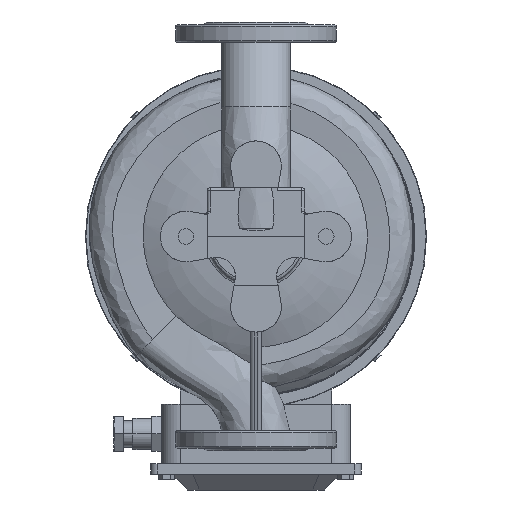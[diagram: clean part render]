
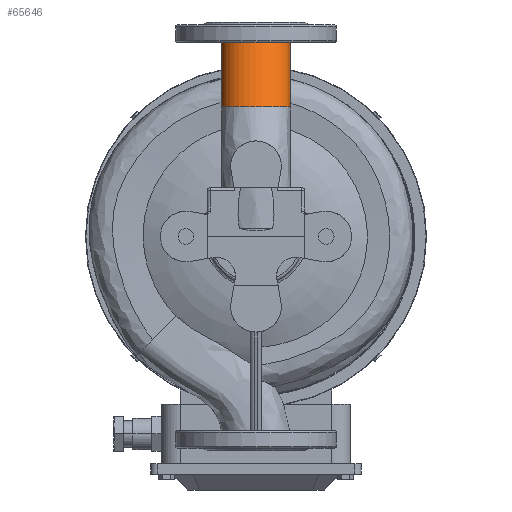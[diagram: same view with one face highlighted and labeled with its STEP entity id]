
A CAD part, front view. The second image highlights one B-rep face of the part: STEP entity #65646.
In plain terms, the highlighted free-form (B-spline) face has degree [3, 1] with [4, 2] control points.
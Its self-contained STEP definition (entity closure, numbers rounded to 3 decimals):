
#5696 = CARTESIAN_POINT ( 'NONE',  ( -35., -46.303, 132.872 ) ) ;
#6303 = CARTESIAN_POINT ( 'NONE',  ( -35., 0., 199. ) ) ;
#8566 = CARTESIAN_POINT ( 'NONE',  ( 0., 0., 199. ) ) ;
#9186 = DIRECTION ( 'NONE',  ( -1., 0., 0. ) ) ;
#10262 =( BOUNDED_SURFACE ( )  B_SPLINE_SURFACE ( 3, 1, ( 
 ( #33633, #49471 ),
 ( #38118, #22234 ),
 ( #17727, #44643 ),
 ( #32607, #54635 ) ),
 .UNSPECIFIED., .F., .F., .T. ) 
 B_SPLINE_SURFACE_WITH_KNOTS ( ( 4, 4 ),
 ( 2, 2 ),
 ( 0.5, 1. ),
 ( 0., 1. ),
 .UNSPECIFIED. ) 
 GEOMETRIC_REPRESENTATION_ITEM ( )  RATIONAL_B_SPLINE_SURFACE ( (
 ( 1., 1.),
 ( 0.333, 0.333),
 ( 0.333, 0.333),
 ( 1., 1.) ) ) 
 REPRESENTATION_ITEM ( '' )  SURFACE ( )  );
#15130 = ORIENTED_EDGE ( 'NONE', *, *, #36885, .F. ) ;
#16627 = CARTESIAN_POINT ( 'NONE',  ( 35., -46.303, 132.872 ) ) ;
#17727 = CARTESIAN_POINT ( 'NONE',  ( -35., -116.303, 132.872 ) ) ;
#19494 = CARTESIAN_POINT ( 'NONE',  ( 0., -46.303, 132.872 ) ) ;
#21372 = EDGE_LOOP ( 'NONE', ( #15130, #36264, #36743, #65960 ) ) ;
#21540 = CIRCLE ( 'NONE', #39237, 35. ) ;
#22234 = CARTESIAN_POINT ( 'NONE',  ( 35., -70., 199. ) ) ;
#24074 = DIRECTION ( 'NONE',  ( 0., 0., -1. ) ) ;
#24853 = B_SPLINE_CURVE_WITH_KNOTS ( 'NONE', 1,
 ( #58703, #6303 ),
 .UNSPECIFIED., .F., .F.,
 ( 2, 2 ),
 ( 0., 1. ),
 .UNSPECIFIED. ) ;
#25646 = EDGE_CURVE ( 'NONE', #65434, #45340, #58097, .T. ) ;
#28587 = CARTESIAN_POINT ( 'NONE',  ( 35., 0., 199. ) ) ;
#29377 = EDGE_CURVE ( 'NONE', #54798, #65434, #42212, .T. ) ;
#30558 = DIRECTION ( 'NONE',  ( 0., 0., -1. ) ) ;
#32603 = CARTESIAN_POINT ( 'NONE',  ( 35., -46.303, 132.872 ) ) ;
#32607 = CARTESIAN_POINT ( 'NONE',  ( -35., -46.303, 132.872 ) ) ;
#33633 = CARTESIAN_POINT ( 'NONE',  ( 35., -46.303, 132.872 ) ) ;
#36264 = ORIENTED_EDGE ( 'NONE', *, *, #29377, .T. ) ;
#36743 = ORIENTED_EDGE ( 'NONE', *, *, #25646, .T. ) ;
#36885 = EDGE_CURVE ( 'NONE', #54798, #40098, #21540, .T. ) ;
#37689 = CARTESIAN_POINT ( 'NONE',  ( 35., 0., 199. ) ) ;
#38118 = CARTESIAN_POINT ( 'NONE',  ( 35., -116.303, 132.872 ) ) ;
#39237 = AXIS2_PLACEMENT_3D ( 'NONE', #19494, #30558, #9186 ) ;
#40098 = VERTEX_POINT ( 'NONE', #5696 ) ;
#42212 = B_SPLINE_CURVE_WITH_KNOTS ( 'NONE', 1,
 ( #16627, #37689 ),
 .UNSPECIFIED., .F., .F.,
 ( 2, 2 ),
 ( 0., 1. ),
 .UNSPECIFIED. ) ;
#44643 = CARTESIAN_POINT ( 'NONE',  ( -35., -70., 199. ) ) ;
#45340 = VERTEX_POINT ( 'NONE', #55096 ) ;
#47047 = EDGE_CURVE ( 'NONE', #40098, #45340, #24853, .T. ) ;
#49471 = CARTESIAN_POINT ( 'NONE',  ( 35., 0., 199. ) ) ;
#49619 = DIRECTION ( 'NONE',  ( -1., 0., 0. ) ) ;
#54635 = CARTESIAN_POINT ( 'NONE',  ( -35., 0., 199. ) ) ;
#54798 = VERTEX_POINT ( 'NONE', #32603 ) ;
#54962 = FACE_OUTER_BOUND ( 'NONE', #21372, .T. ) ;
#55096 = CARTESIAN_POINT ( 'NONE',  ( -35., 0., 199. ) ) ;
#58097 = CIRCLE ( 'NONE', #63750, 35. ) ;
#58703 = CARTESIAN_POINT ( 'NONE',  ( -35., -46.303, 132.872 ) ) ;
#63750 = AXIS2_PLACEMENT_3D ( 'NONE', #8566, #24074, #49619 ) ;
#65434 = VERTEX_POINT ( 'NONE', #28587 ) ;
#65646 = ADVANCED_FACE ( 'NONE', ( #54962 ), #10262, .F. ) ;
#65960 = ORIENTED_EDGE ( 'NONE', *, *, #47047, .F. ) ;
